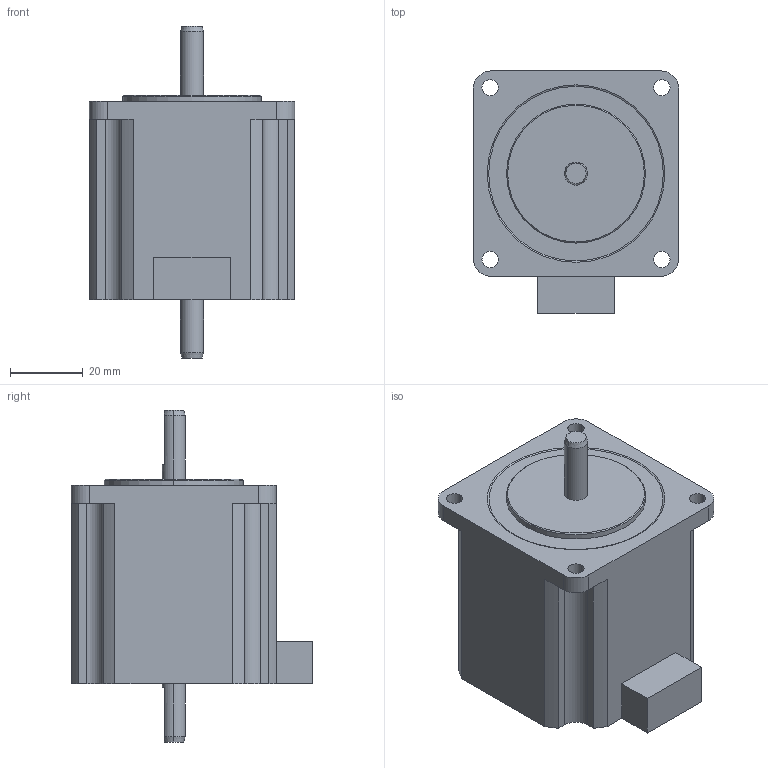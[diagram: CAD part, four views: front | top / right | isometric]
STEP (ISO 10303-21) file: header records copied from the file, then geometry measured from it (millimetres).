
FILE_DESCRIPTION (( 'STEP AP203' ), '1' );
FILE_NAME ('PMSA-U56D3D_3D.STEP', '2016-11-15T04:50:18', ( 'SKJ00869' ), ( '' ), 'SwSTEP 2.0', 'SolidWorks 2014', '' );
FILE_SCHEMA (( 'CONFIG_CONTROL_DESIGN' ));
Length unit declared in the file: millimetre
Products named in the file (1): PMSA-U56D3D_3D
Bounding box: 56.4 x 66.4 x 91.1 mm (x, y, z)
Volume: 162200.5 mm3; surface area: 19295.1 mm2
Topology: 1 solids, 1 shells, 70 faces, 186 edges, 122 vertices
Faces by surface type: cylinder 30, plane 30, cone 10
Entity records: 2303 total; most frequent: DIRECTION 400, CARTESIAN_POINT 399, ORIENTED_EDGE 372, EDGE_CURVE 186, AXIS2_PLACEMENT_3D 147, VERTEX_POINT 122, LINE 106, VECTOR 106
